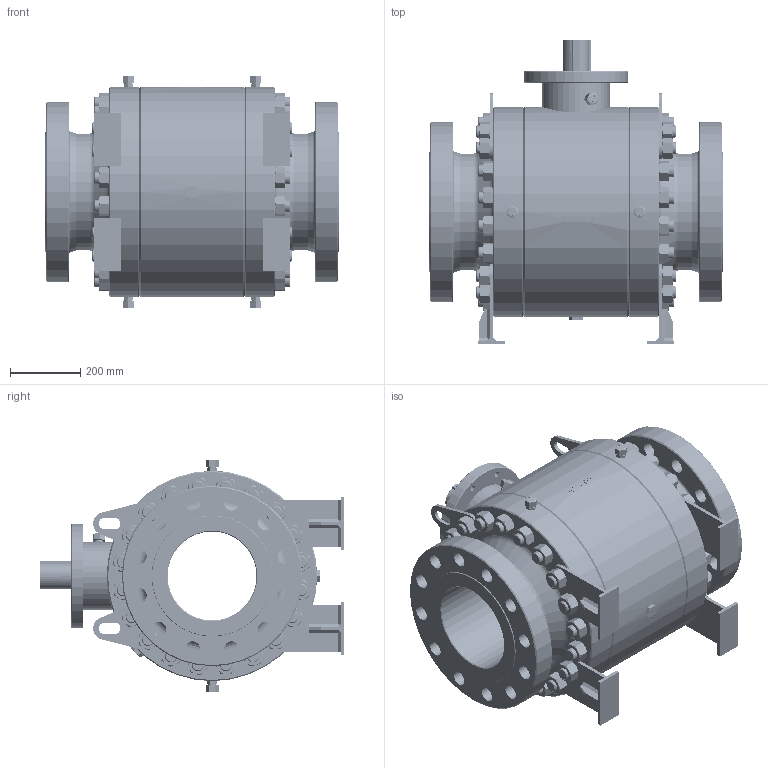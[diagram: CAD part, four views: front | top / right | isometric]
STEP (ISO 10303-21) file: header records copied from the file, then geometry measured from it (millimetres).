
FILE_DESCRIPTION (( 'STEP AP203' ), '1' );
FILE_NAME ('Fig.6090 DN-250 PN-160.STEP', '2017-04-19T15:18:45', ( 'admin' ), ( 'Hewlett-Packard Company' ), 'SwSTEP 2.0', 'SolidWorks 2016', '' );
FILE_SCHEMA (( 'CONFIG_CONTROL_DESIGN' ));
Length unit declared in the file: millimetre
Products named in the file (23): Fig.6090 DN-250 PN-160; Tapón purga 1 NPT; 6090TB250FSFF; Engrasador 3_8 NPT-2; 6090TB250ARG; Engrasador 3_8 NPT-1; 6090TB250BAD_Predeterminado<Como mecanizada>; 6090TB250C; Engrasador 3_8 NPT; 6090TB250BAI_Predeterminado<Como mecanizada>; 6090TB250L160; UN 1-3_8-8 x 190; 1620108CH; 6090TB250B; UN 1-3_8-8 x 185; DIN 912 M4 x 16_EN ISO 4762 M4 x 16 - 16N; 6090TB250E; UN 1.3_8-8_HHNUT 0.8750-9-D-C; DIN 6325 - 14 x 70; 6090TB250PP; AM2506090; DIN 912 M20 x 120 - 52_EN ISO 4762 M20 x 130 - 52N; 6090TB250GB
Assembly tree (118 placements, depth 3):
  Fig.6090 DN-250 PN-160
    6090TB250C
    6090TB250L160  x2
    6090TB250B
    6090TB250E
    6090TB250PP
    6090TB250GB  x2
    6090TB250FSFF
    6090TB250ARG  x4
    6090TB250BAD_Predeterminado<Como mecanizada>  x2
    6090TB250BAI_Predeterminado<Como mecanizada>  x2
    1620108CH  x2
    DIN 912 M4 x 16_EN ISO 4762 M4 x 16 - 16N  x2
    DIN 6325 - 14 x 70  x2
    DIN 912 M20 x 120 - 52_EN ISO 4762 M20 x 130 - 52N  x4
    Tapón purga 1 NPT  x2
    Engrasador 3_8 NPT  x5
      Engrasador 3_8 NPT-2
      Engrasador 3_8 NPT-1
    UN 1-3_8-8 x 190  x16
    UN 1-3_8-8 x 185  x24
    UN 1.3_8-8_HHNUT 0.8750-9-D-C  x40
    AM2506090  x2
Bounding box: 838 x 869.43 x 664 mm (x, y, z)
Volume: 139824070.2 mm3; surface area: 8616550.8 mm2
Topology: 145 solids, 145 shells, 3620 faces, 8199 edges, 4881 vertices
Faces by surface type: cylinder 1199, cone 1179, plane 1099, torus 88, bspline 41, sphere 14
Entity records: 51919 total; most frequent: CARTESIAN_POINT 12504, DIRECTION 7765, ORIENTED_EDGE 6576, EDGE_CURVE 3288, AXIS2_PLACEMENT_3D 3166, VERTEX_POINT 2082, EDGE_LOOP 1852, CIRCLE 1616
